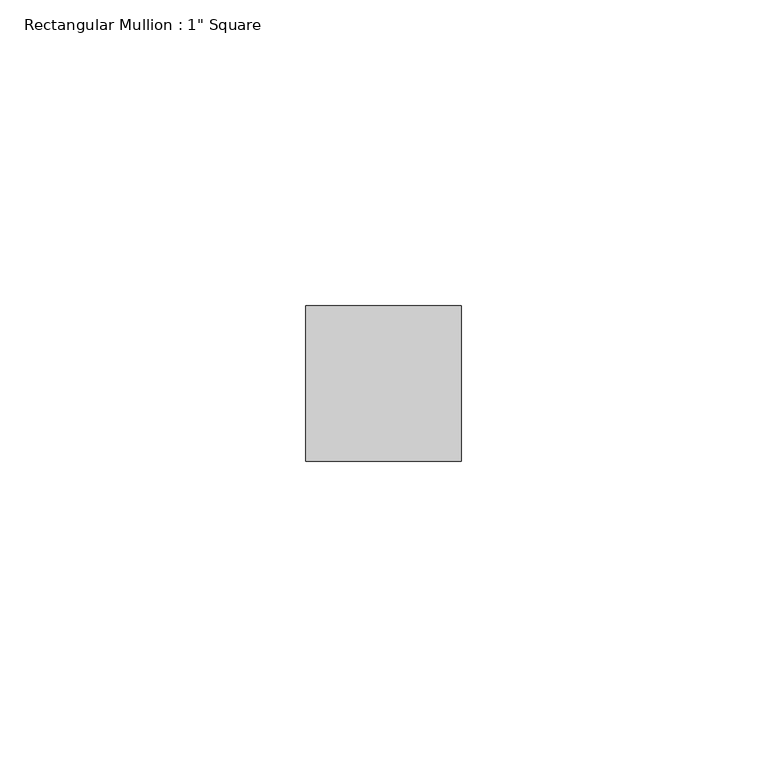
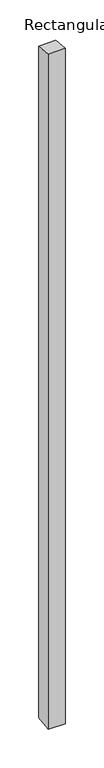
"""IFC4 building model written with IfcOpenShell, lengths in millimetres: member geometry."""

from ifc_helpers import new_model, si_unit, origin, place, context, project, spatial, faceted_brep, source, transform, mapped, element, save


def member_63cfc018(model_context):
    return source(origin(), model_context, "Body", "Brep", [
        faceted_brep([(-25.4, 12.7, -1.7559098), (0.0, 12.7, -1.4340997), (0.0, 12.7, -1065.3676186), (-25.4, 12.7, -1065.046194), (-25.4, -12.7, 1.1122895), (-25.4, -12.7, -1067.9109568), (0.0, -12.7, 1.4340997), (0.0, -12.7, -1068.2323814)], [[[0, 1, 2, 3]], [[4, 0, 3, 5]], [[6, 4, 5, 7]], [[1, 6, 7, 2]], [[1, 0, 4, 6]], [[2, 7, 5, 3]]]),
    ])


if __name__ == "__main__":
    model = new_model("IFC4")
    model_context = context("Model", 3, world=origin())
    ifc_project = project(units=[si_unit("LENGTHUNIT", "METRE", prefix="MILLI")], contexts=[model_context])
    site = spatial("IfcSite", under=ifc_project)
    building = spatial("IfcBuilding", under=site)
    placement = place(None, origin())
    member_shape = member_63cfc018(model_context)
    element("IfcMember", 1, ObjectType="Rectangular Mullion : 1\" Square", at=placement, inside=building, context=model_context, shape_type="MappedRepresentation", body=[
        mapped(member_shape, transform((0.0, 0.0, 0.0), x_axis=(1.0, 0.0, 0.0), y_axis=(0.0, 1.0, 0.0), z_axis=(0.0, 0.0, 1.0))),
    ])
    save(model, "model.ifc")
